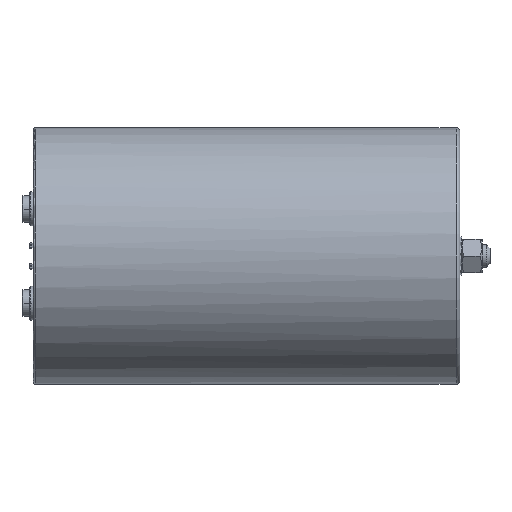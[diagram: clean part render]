
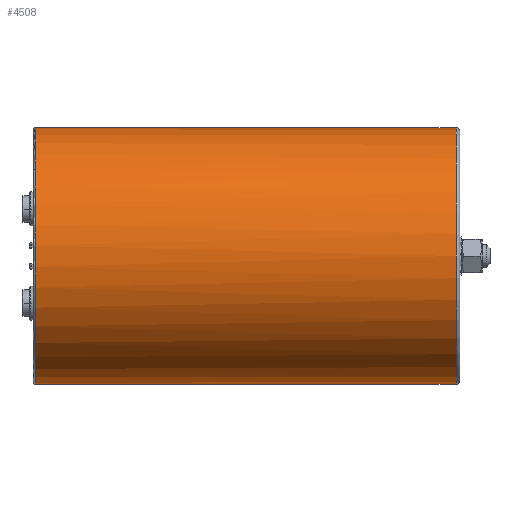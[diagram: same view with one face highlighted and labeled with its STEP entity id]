
A CAD part, left-side view. The second image highlights one B-rep face of the part: STEP entity #4508.
In plain terms, the highlighted cylindrical face has radius 68 mm (diameter 136 mm), a partial arc.
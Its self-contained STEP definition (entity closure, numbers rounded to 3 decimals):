
#122 = CYLINDRICAL_SURFACE ( 'NONE', #1611, 68. ) ;
#380 = DIRECTION ( 'NONE',  ( 0., -1., 0. ) ) ;
#437 = ORIENTED_EDGE ( 'NONE', *, *, #2466, .T. ) ;
#635 = CARTESIAN_POINT ( 'NONE',  ( 0., 225., -68. ) ) ;
#943 = CARTESIAN_POINT ( 'NONE',  ( 0., 0., -68. ) ) ;
#979 = CARTESIAN_POINT ( 'NONE',  ( 0., 225., 0. ) ) ;
#1054 = VERTEX_POINT ( 'NONE', #4497 ) ;
#1164 = CARTESIAN_POINT ( 'NONE',  ( 0., 2., -68. ) ) ;
#1407 = DIRECTION ( 'NONE',  ( 0., -1., 0. ) ) ;
#1611 = AXIS2_PLACEMENT_3D ( 'NONE', #4489, #6748, #4178 ) ;
#1628 = AXIS2_PLACEMENT_3D ( 'NONE', #6568, #1407, #5374 ) ;
#2232 = CIRCLE ( 'NONE', #1628, 68. ) ;
#2276 = DIRECTION ( 'NONE',  ( 0., 1., 0. ) ) ;
#2466 = EDGE_CURVE ( 'NONE', #6614, #4307, #6547, .T. ) ;
#2511 = CARTESIAN_POINT ( 'NONE',  ( -50.101, 225., 45.977 ) ) ;
#2524 = ORIENTED_EDGE ( 'NONE', *, *, #7269, .T. ) ;
#2957 = FACE_OUTER_BOUND ( 'NONE', #3351, .T. ) ;
#3208 = DIRECTION ( 'NONE',  ( -0.737, 0., 0.676 ) ) ;
#3308 = VECTOR ( 'NONE', #7069, 1000. ) ;
#3351 = EDGE_LOOP ( 'NONE', ( #5026, #6635, #6505, #2524, #437 ) ) ;
#3533 = EDGE_CURVE ( 'NONE', #1054, #4307, #4812, .T. ) ;
#3694 = DIRECTION ( 'NONE',  ( 0., -1., 0. ) ) ;
#3727 = LINE ( 'NONE', #943, #5305 ) ;
#4015 = AXIS2_PLACEMENT_3D ( 'NONE', #979, #3694, #3208 ) ;
#4178 = DIRECTION ( 'NONE',  ( 0., 0., -1. ) ) ;
#4307 = VERTEX_POINT ( 'NONE', #4334 ) ;
#4334 = CARTESIAN_POINT ( 'NONE',  ( 0., 2., 68. ) ) ;
#4489 = CARTESIAN_POINT ( 'NONE',  ( 0., 0., 0. ) ) ;
#4497 = CARTESIAN_POINT ( 'NONE',  ( 0., 225., 68. ) ) ;
#4508 = ADVANCED_FACE ( 'NONE', ( #2957 ), #122, .T. ) ;
#4812 = LINE ( 'NONE', #6437, #3308 ) ;
#5026 = ORIENTED_EDGE ( 'NONE', *, *, #3533, .F. ) ;
#5227 = CARTESIAN_POINT ( 'NONE',  ( 0., 2., 0. ) ) ;
#5258 = VERTEX_POINT ( 'NONE', #2511 ) ;
#5305 = VECTOR ( 'NONE', #380, 1000. ) ;
#5368 = VERTEX_POINT ( 'NONE', #635 ) ;
#5374 = DIRECTION ( 'NONE',  ( -0.737, 0., 0.676 ) ) ;
#5595 = EDGE_CURVE ( 'NONE', #5258, #5368, #2232, .T. ) ;
#5667 = CIRCLE ( 'NONE', #4015, 68. ) ;
#6204 = AXIS2_PLACEMENT_3D ( 'NONE', #5227, #2276, #6791 ) ;
#6437 = CARTESIAN_POINT ( 'NONE',  ( 0., 0., 68. ) ) ;
#6505 = ORIENTED_EDGE ( 'NONE', *, *, #5595, .T. ) ;
#6547 = CIRCLE ( 'NONE', #6204, 68. ) ;
#6568 = CARTESIAN_POINT ( 'NONE',  ( 0., 225., 0. ) ) ;
#6614 = VERTEX_POINT ( 'NONE', #1164 ) ;
#6635 = ORIENTED_EDGE ( 'NONE', *, *, #7179, .T. ) ;
#6748 = DIRECTION ( 'NONE',  ( 0., -1., 0. ) ) ;
#6791 = DIRECTION ( 'NONE',  ( 0., 0., -1. ) ) ;
#7069 = DIRECTION ( 'NONE',  ( 0., -1., 0. ) ) ;
#7179 = EDGE_CURVE ( 'NONE', #1054, #5258, #5667, .T. ) ;
#7269 = EDGE_CURVE ( 'NONE', #5368, #6614, #3727, .T. ) ;
